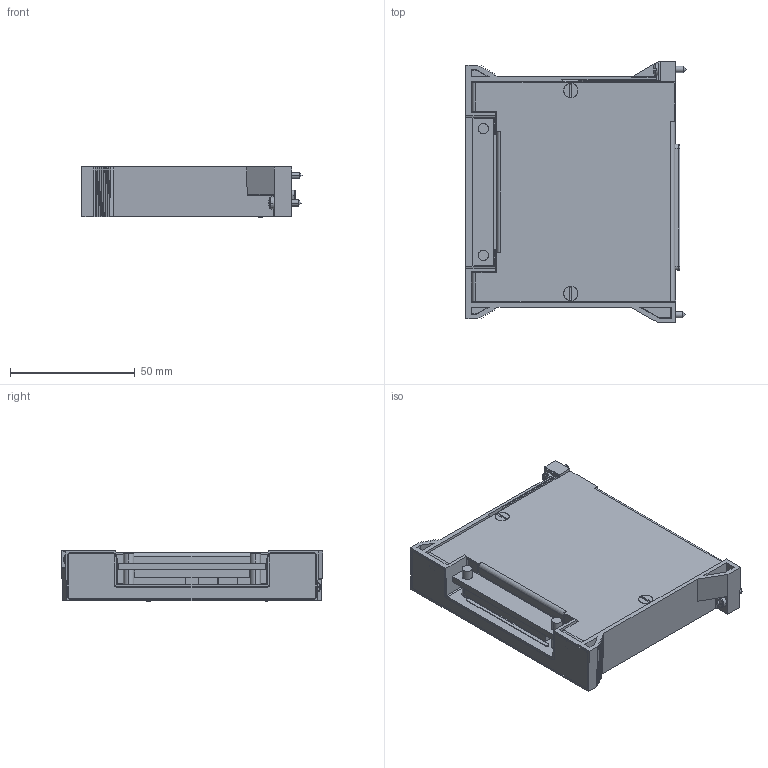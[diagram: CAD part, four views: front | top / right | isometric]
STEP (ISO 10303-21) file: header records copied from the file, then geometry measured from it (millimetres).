
FILE_DESCRIPTION((''),'2;1');
FILE_NAME('CU_TB-2631','2011-08-10T',('jjorden'),(''),'PRO/ENGINEER BY PARAMETRIC TECHNOLOGY CORPORATION, 2010230','PRO/ENGINEER BY PARAMETRIC TECHNOLOGY CORPORATION, 2010230','');
FILE_SCHEMA(('CONFIG_CONTROL_DESIGN'));
Products named in the file (1): CU_TB-2631
Bounding box: 88.3 x 104.78 x 20.08 mm (x, y, z)
Volume: 64799.6 mm3; surface area: 69614.8 mm2
Topology: 2 solids, 4 shells, 2259 faces, 5985 edges, 3838 vertices
Faces by surface type: plane 1674, cylinder 412, bspline 84, cone 50, sphere 27, torus 12
Entity records: 71892 total; most frequent: CARTESIAN_POINT 15597, ORIENTED_EDGE 11842, DIRECTION 11027, EDGE_CURVE 5921, VECTOR 4707, LINE 4707, VERTEX_POINT 3895, AXIS2_PLACEMENT_3D 3160
